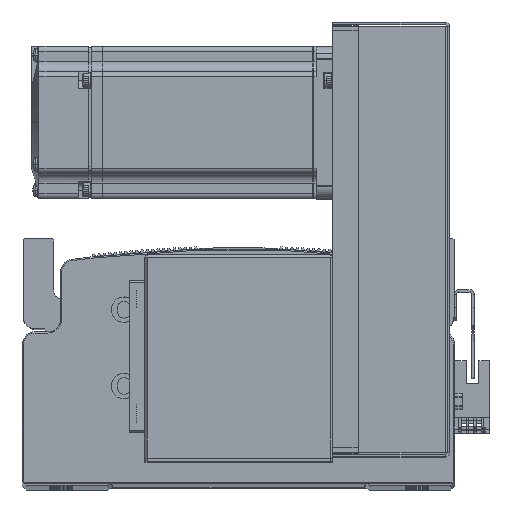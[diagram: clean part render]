
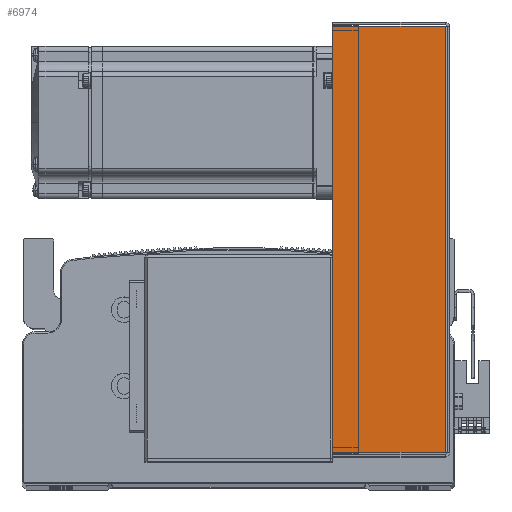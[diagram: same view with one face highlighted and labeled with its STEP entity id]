
A CAD part, top view. The second image highlights one B-rep face of the part: STEP entity #6974.
In plain terms, the highlighted planar face has unit normal (0, 0, 1).
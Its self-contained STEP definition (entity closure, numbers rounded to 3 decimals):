
#6974 = ADVANCED_FACE ( 'NONE', ( #50025 ), #48025, .F. ) ;
#8199 = LINE ( 'NONE', #70581, #8218 ) ;
#8205 = VECTOR ( 'NONE', #70738, 1000. ) ;
#8218 = VECTOR ( 'NONE', #70593, 1000. ) ;
#8222 = LINE ( 'NONE', #70720, #8223 ) ;
#8223 = VECTOR ( 'NONE', #70757, 1000. ) ;
#8237 = LINE ( 'NONE', #70530, #8246 ) ;
#8246 = VECTOR ( 'NONE', #70512, 1000. ) ;
#8247 = LINE ( 'NONE', #70733, #8205 ) ;
#10378 = CARTESIAN_POINT ( 'NONE',  ( 83.793, 45., 40.5 ) ) ;
#10421 = CARTESIAN_POINT ( 'NONE',  ( 83.793, 0.737, 40.5 ) ) ;
#10424 = CARTESIAN_POINT ( 'NONE',  ( -83.793, 0.737, 40.5 ) ) ;
#10454 = CARTESIAN_POINT ( 'NONE',  ( -83.793, 45., 40.5 ) ) ;
#40651 = VERTEX_POINT ( 'NONE', #10421 ) ;
#40662 = VERTEX_POINT ( 'NONE', #10454 ) ;
#40686 = VERTEX_POINT ( 'NONE', #10424 ) ;
#42744 = VERTEX_POINT ( 'NONE', #10378 ) ;
#48025 = PLANE ( 'NONE',  #54931 ) ;
#48032 = CARTESIAN_POINT ( 'NONE',  ( 0., 0., 40.5 ) ) ;
#48037 = DIRECTION ( 'NONE',  ( 0., 0., -1. ) ) ;
#48045 = DIRECTION ( 'NONE',  ( -1., 0., 0. ) ) ;
#50025 = FACE_OUTER_BOUND ( 'NONE', #81088, .T. ) ;
#53243 = ORIENTED_EDGE ( 'NONE', *, *, #83700, .F. ) ;
#53254 = ORIENTED_EDGE ( 'NONE', *, *, #83562, .T. ) ;
#53260 = ORIENTED_EDGE ( 'NONE', *, *, #83616, .F. ) ;
#53345 = ORIENTED_EDGE ( 'NONE', *, *, #83667, .T. ) ;
#54931 = AXIS2_PLACEMENT_3D ( 'NONE', #48032, #48037, #48045 ) ;
#70512 = DIRECTION ( 'NONE',  ( -1., 0., 0. ) ) ;
#70530 = CARTESIAN_POINT ( 'NONE',  ( -84.5, 45., 40.5 ) ) ;
#70581 = CARTESIAN_POINT ( 'NONE',  ( -83.793, 0., 40.5 ) ) ;
#70593 = DIRECTION ( 'NONE',  ( 0., 1., 0. ) ) ;
#70720 = CARTESIAN_POINT ( 'NONE',  ( 0., 0.737, 40.5 ) ) ;
#70733 = CARTESIAN_POINT ( 'NONE',  ( 83.793, 0., 40.5 ) ) ;
#70738 = DIRECTION ( 'NONE',  ( 0., 1., 0. ) ) ;
#70757 = DIRECTION ( 'NONE',  ( -1., 0., 0. ) ) ;
#81088 = EDGE_LOOP ( 'NONE', ( #53243, #53345, #53254, #53260 ) ) ;
#83562 = EDGE_CURVE ( 'NONE', #42744, #40662, #8237, .T. ) ;
#83616 = EDGE_CURVE ( 'NONE', #40686, #40662, #8199, .T. ) ;
#83667 = EDGE_CURVE ( 'NONE', #40651, #42744, #8247, .T. ) ;
#83700 = EDGE_CURVE ( 'NONE', #40651, #40686, #8222, .T. ) ;
